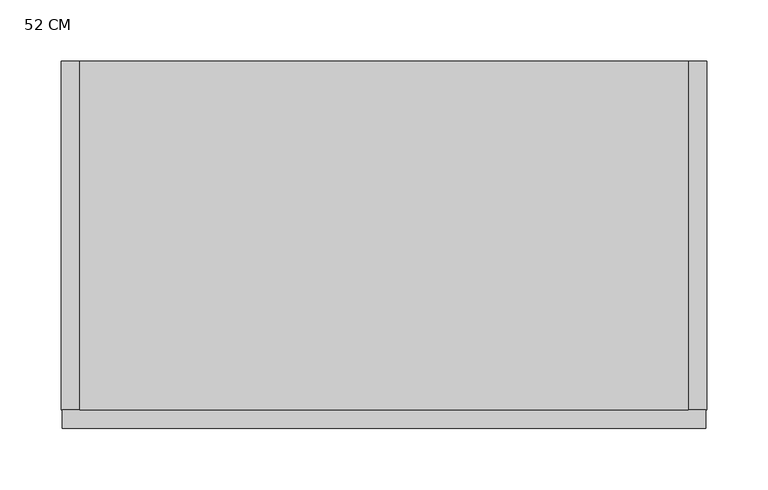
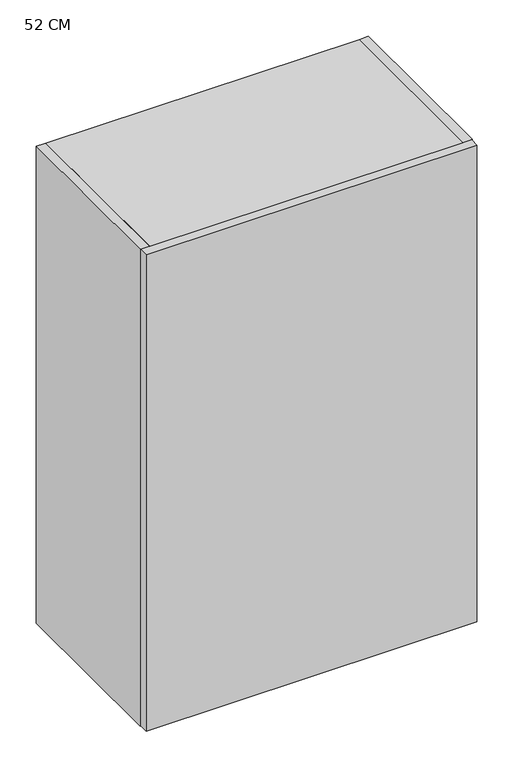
"""IFC4 building model written with IfcOpenShell, lengths in millimetres: furniture geometry, Mueble superior 1 puertas : 52 CM."""

import ifcopenshell
import ifcopenshell.guid

model = None  # the IFC model being written
_history = None  # IfcOwnerHistory: only IFC2X3 demands one
_inside = {}  # id of a spatial element -> (the spatial element, [elements in it])
_under = {}  # id of a project, library or spatial element -> (it, [spatial elements below it])
_declared = {}  # id of a project -> (the project, [libraries it declares])
_typed = {}  # id of a type object -> (the type object, [elements of that type])
_made_of = {}  # id of a material, layer set ... -> (it, [elements and type objects made of it])


def new_model(schema):
    """Start an empty IFC model of exactly this schema.

    Asked for "IFC4X3", IfcOpenShell would pick the latest addendum, in which some entities
    have other attributes; the version numbers below select the first issue.
    IFC2X3 requires an IfcOwnerHistory on every rooted entity: one is made here for all.
    """
    global model, _history
    if schema == "IFC4X3":
        model = ifcopenshell.file(schema_version=(4, 3, 0, 0))
    else:
        model = ifcopenshell.file(schema=schema)
    _inside.clear()
    _under.clear()
    _declared.clear()
    _typed.clear()
    _made_of.clear()
    _history = None
    if model.schema == "IFC2X3":
        org = make("IfcOrganization", Name="unknown")
        user = make(
            "IfcPersonAndOrganization",
            ThePerson=make("IfcPerson", FamilyName="unknown"),
            TheOrganization=org,
        )
        app = make(
            "IfcApplication",
            ApplicationDeveloper=org,
            Version="unknown",
            ApplicationFullName="unknown",
            ApplicationIdentifier="unknown",
        )
        _history = make(
            "IfcOwnerHistory",
            OwningUser=user,
            OwningApplication=app,
            ChangeAction="ADDED",
            CreationDate=0,
        )
    return model


def make(cls, **values):
    """One entity of the class cls with the attributes given. An attribute that is None is left unset."""
    return model.create_entity(
        cls, **{name: value for name, value in values.items() if value is not None}
    )


def rooted(cls, **values):
    """An entity with a GlobalId (a new one), such as an element, a storey or a relation."""
    return make(cls, GlobalId=ifcopenshell.guid.new(), OwnerHistory=_history, **values)


def si_unit(unit_type, name, prefix=None):
    """IfcSIUnit, for example si_unit("LENGTHUNIT", "METRE", prefix="MILLI")."""
    return make("IfcSIUnit", UnitType=unit_type, Prefix=prefix, Name=name)


def assignment(units):
    """IfcUnitAssignment: the units of a project."""
    return None if units is None else make("IfcUnitAssignment", Units=units)


def point(xyz):
    """IfcCartesianPoint."""
    return None if xyz is None else make("IfcCartesianPoint", Coordinates=xyz)


def direction(xyz):
    """IfcDirection."""
    return None if xyz is None else make("IfcDirection", DirectionRatios=xyz)


def frame(location, z_axis=None, x_axis=None):
    """IfcAxis2Placement3D, a coordinate frame: its origin and axes. An axis left out is left unset."""
    return make(
        "IfcAxis2Placement3D",
        Location=point(location),
        Axis=direction(z_axis),
        RefDirection=direction(x_axis),
    )


def origin():
    """The frame at (0, 0, 0) with its axes left unset."""
    return frame((0.0, 0.0, 0.0))


def place(relative_to, where):
    """IfcLocalPlacement: puts the frame where relative to a parent placement (None: the world)."""
    return make(
        "IfcLocalPlacement", PlacementRelTo=relative_to, RelativePlacement=where
    )


def context(
    kind, dimensions, precision=None, world=None, true_north=None, identifier=None
):
    """IfcGeometricRepresentationContext, for example the 3D "Model" context."""
    return make(
        "IfcGeometricRepresentationContext",
        ContextIdentifier=identifier,
        ContextType=kind,
        CoordinateSpaceDimension=dimensions,
        Precision=precision,
        WorldCoordinateSystem=world,
        TrueNorth=true_north,
    )


def project(units=None, contexts=None):
    """IfcProject with its units and contexts."""
    return rooted(
        "IfcProject",
        Name="project",
        RepresentationContexts=contexts,
        UnitsInContext=assignment(units),
    )


def spatial(cls, under=None, at=None, **own):
    """A site, building, storey or space (cls), placed at a placement, below another one or the project."""
    s = rooted(cls, ObjectPlacement=at, **own)
    if under is not None:
        _under.setdefault(under.id(), (under, []))[1].append(s)
    return s


def polyline(points):
    """IfcPolyline through the points."""
    return make("IfcPolyline", Points=[point(p) for p in points])


def outline(outer, holes=None, kind="AREA"):
    """IfcArbitraryClosedProfileDef: a profile drawn as a closed curve; with holes, ...WithVoids."""
    if holes is None:
        return make("IfcArbitraryClosedProfileDef", ProfileType=kind, OuterCurve=outer)
    return make(
        "IfcArbitraryProfileDefWithVoids",
        ProfileType=kind,
        OuterCurve=outer,
        InnerCurves=holes,
    )


def extrude(swept, where, along, depth):
    """IfcExtrudedAreaSolid: the profile swept, set in the frame where, extruded along a direction by depth."""
    return make(
        "IfcExtrudedAreaSolid",
        SweptArea=swept,
        Position=where,
        ExtrudedDirection=direction(along),
        Depth=depth,
    )


def shape(context_of_items, identifier, shape_type, items):
    """IfcShapeRepresentation: the items that make up one representation, for example the "Body"."""
    return make(
        "IfcShapeRepresentation",
        ContextOfItems=context_of_items,
        RepresentationIdentifier=identifier,
        RepresentationType=shape_type,
        Items=items,
    )


def source(mapping_origin, context_of_items, identifier, shape_type, items):
    """IfcRepresentationMap: a shape defined once, which mapped items show again and again."""
    return make(
        "IfcRepresentationMap",
        MappingOrigin=mapping_origin,
        MappedRepresentation=shape(context_of_items, identifier, shape_type, items),
    )


def transform(
    local_origin,
    x_axis=None,
    y_axis=None,
    z_axis=None,
    scale=None,
    scale2=None,
    scale3=None,
    uniform=True,
):
    """IfcCartesianTransformationOperator3D, or its non-uniform kind. x_axis, y_axis, z_axis: its Axis1, 2, 3."""
    if uniform:
        return make(
            "IfcCartesianTransformationOperator3D",
            Axis1=direction(x_axis),
            Axis2=direction(y_axis),
            LocalOrigin=point(local_origin),
            Scale=scale,
            Axis3=direction(z_axis),
        )
    return make(
        "IfcCartesianTransformationOperator3DnonUniform",
        Axis1=direction(x_axis),
        Axis2=direction(y_axis),
        LocalOrigin=point(local_origin),
        Scale=scale,
        Axis3=direction(z_axis),
        Scale2=scale2,
        Scale3=scale3,
    )


def mapped(mapping_source, mapping_target):
    """IfcMappedItem: shows the shape of a source again, moved by a transform."""
    return make(
        "IfcMappedItem", MappingSource=mapping_source, MappingTarget=mapping_target
    )


def made_of(thing, what):
    """Note that an element or type object is made of a material, layer set ...; save() writes the relation."""
    if what is not None:
        _made_of.setdefault(what.id(), (what, []))[1].append(thing)
    return thing


def element(
    cls,
    number,
    at=None,
    inside=None,
    cuts=None,
    type_object=None,
    material=None,
    context=None,
    identifier="Body",
    shape_type=None,
    held_by="IfcProductDefinitionShape",
    body=None,
    shapes=None,
    **own,
):
    """One element of the class cls, such as IfcWall. Its Tag is "e" and its number.

    at: its placement. inside: the storey or other place that contains it. cuts: it is an
    opening in that element (IfcRelVoidsElement). A single representation is given by context,
    identifier, shape_type and body (its items); several are given by shapes. held_by: the class
    of the entity that holds the representations. save() writes the other relations.
    """
    e = rooted(cls, Tag="e%d" % number, ObjectPlacement=at, **own)
    if body is not None:
        shapes = [shape(context, identifier, shape_type, body)]
    if shapes is not None:
        e.Representation = make(held_by, Representations=shapes)
    if inside is not None:
        _inside.setdefault(inside.id(), (inside, []))[1].append(e)
    if cuts is not None:
        rooted(
            "IfcRelVoidsElement", RelatingBuildingElement=cuts, RelatedOpeningElement=e
        )
    if type_object is not None:
        _typed.setdefault(type_object.id(), (type_object, []))[1].append(e)
    return made_of(e, material)


def aggregate(whole, parts):
    """IfcRelAggregates: a whole, such as a stair, and the parts it consists of."""
    return rooted("IfcRelAggregates", RelatingObject=whole, RelatedObjects=parts)


def save(model, path):
    """Write the relations noted so far, then the file.

    IfcRelAggregates (storeys below a building ...), IfcRelContainedInSpatialStructure (elements
    in a storey), IfcRelDefinesByType, IfcRelAssociatesMaterial and IfcRelDeclares: one each for
    every whole, place, type object, material and project.
    """
    for whole, parts in _under.values():
        aggregate(whole, parts)
    for where, things in _inside.values():
        rooted(
            "IfcRelContainedInSpatialStructure",
            RelatedElements=things,
            RelatingStructure=where,
        )
    for kind, things in _typed.values():
        rooted("IfcRelDefinesByType", RelatedObjects=things, RelatingType=kind)
    for what, things in _made_of.values():
        rooted("IfcRelAssociatesMaterial", RelatedObjects=things, RelatingMaterial=what)
    for by, libraries in _declared.values():
        rooted("IfcRelDeclares", RelatingContext=by, RelatedDefinitions=libraries)
    model.write(path)


def furniture_52_cm_2eac06b0(model_context):
    return source(origin(), model_context, "Body", "SweptSolid", [
        extrude(outline(polyline([(373.5, -365.0), (-123.5, -365.0), (-123.5, -80.0), (373.5, -80.0), (373.5, -365.0)])), frame((0.0, 0.0, 2385.0), z_axis=(0.0, 0.0, 1.0), x_axis=(1.0, 0.0, 0.0)), (0.0, 0.0, 1.0), 15.0),
        extrude(outline(polyline([(373.5, -365.0), (-123.5, -365.0), (-123.5, -80.0), (373.5, -80.0), (373.5, -365.0)])), frame((0.0, 0.0, 1600.0), z_axis=(0.0, 0.0, 1.0), x_axis=(1.0, 0.0, 0.0)), (0.0, 0.0, 1.0), 15.0),
        extrude(outline(polyline([(387.5, -365.0), (387.5, -380.0), (-137.5, -380.0), (-137.5, -365.0), (387.5, -365.0)])), frame((0.0, 0.0, 1600.0), z_axis=(0.0, 0.0, 1.0), x_axis=(1.0, 0.0, 0.0)), (0.0, 0.0, 1.0), 800.0),
        extrude(outline(polyline([(-123.5, -365.0), (-138.5, -365.0), (-138.5, -80.0), (-123.5, -80.0), (-123.5, -365.0)])), frame((0.0, 0.0, 1600.0), z_axis=(0.0, 0.0, 1.0), x_axis=(1.0, 0.0, 0.0)), (0.0, 0.0, 1.0), 800.0),
        extrude(outline(polyline([(373.5, -365.0), (373.5, -80.0), (388.5, -80.0), (388.5, -365.0), (373.5, -365.0)])), frame((0.0, 0.0, 1600.0), z_axis=(0.0, 0.0, 1.0), x_axis=(1.0, 0.0, 0.0)), (0.0, 0.0, 1.0), 800.0),
        extrude(outline(polyline([(373.5, -80.0), (373.5, -100.0), (-123.5, -100.0), (-123.5, -80.0), (373.5, -80.0)])), frame((0.0, 0.0, 1615.0), z_axis=(0.0, 0.0, 1.0), x_axis=(1.0, 0.0, 0.0)), (0.0, 0.0, 1.0), 770.0),
    ])


if __name__ == "__main__":
    model = new_model("IFC4")
    model_context = context("Model", 3, world=origin())
    ifc_project = project(units=[si_unit("LENGTHUNIT", "METRE", prefix="MILLI")], contexts=[model_context])
    site = spatial("IfcSite", under=ifc_project)
    building = spatial("IfcBuilding", under=site)
    placement = place(None, origin())
    furniture_52_cm_shape = furniture_52_cm_2eac06b0(model_context)
    element("IfcFurniture", 1, ObjectType="Mueble superior 1 puertas : 52 CM", at=placement, inside=building, context=model_context, shape_type="MappedRepresentation", body=[
        mapped(furniture_52_cm_shape, transform((0.0, 0.0, 0.0), x_axis=(1.0, 0.0, 0.0), y_axis=(0.0, 1.0, 0.0), z_axis=(0.0, 0.0, 1.0))),
    ])
    save(model, "model.ifc")
